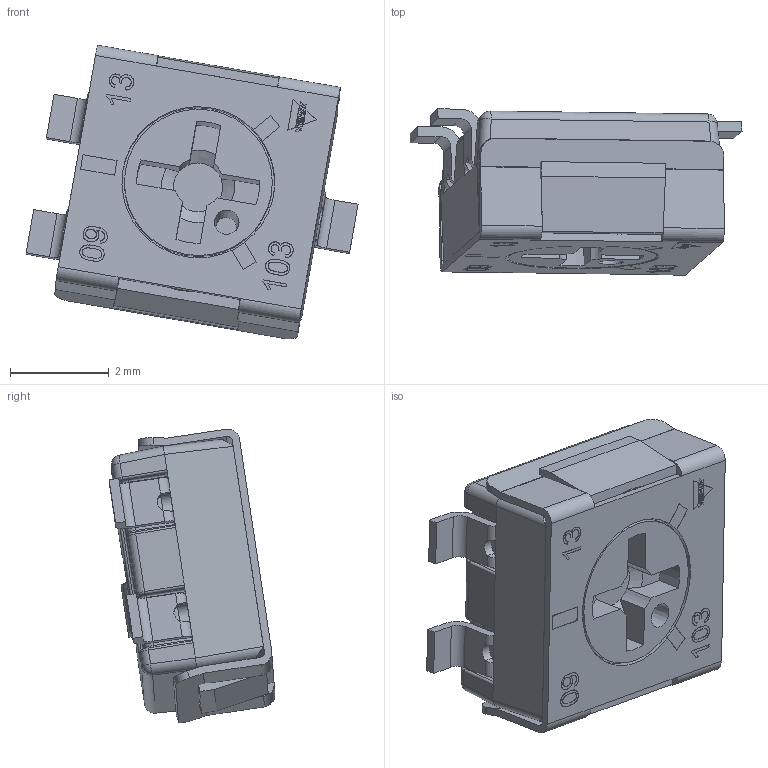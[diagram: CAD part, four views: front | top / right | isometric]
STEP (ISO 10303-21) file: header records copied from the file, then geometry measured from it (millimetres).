
FILE_DESCRIPTION(/* description */ ('Unknown'),/* implementation_level */ '2;1');
FILE_NAME(/* name */ 'TS5YL-VISHAY',/* time_stamp */ '2018-11-28T16:16:42+01:00',/* author */ ('Unknown'),/* organization */ ('Unknown'),/* preprocessor_version */ 'ST-DEVELOPER v16.7',/* originating_system */ 'DEX',/* authorisation */ $);
FILE_SCHEMA (('AUTOMOTIVE_DESIGN {1 0 10303 214 3 1 1}'));
Length unit declared in the file: millimetre
Products named in the file (1): TS5YL-VISHAY
Bounding box: 6.73 x 3.37 x 5.96 mm (x, y, z)
Volume: 62.2 mm3; surface area: 349.4 mm2
Topology: 8 solids, 8 shells, 481 faces, 1216 edges, 767 vertices
Faces by surface type: plane 285, cylinder 129, bspline 30, cone 19, torus 14, sphere 4
Full cylindrical faces by diameter (mm): 0.45 x1, 3 x1, 3.1 x1, 3.7 x2, 3.9 x2
Entity records: 15973 total; most frequent: CARTESIAN_POINT 3307, ORIENTED_EDGE 2360, DIRECTION 2295, EDGE_CURVE 1180, LINE 815, VECTOR 815, VERTEX_POINT 756, AXIS2_PLACEMENT_3D 740
